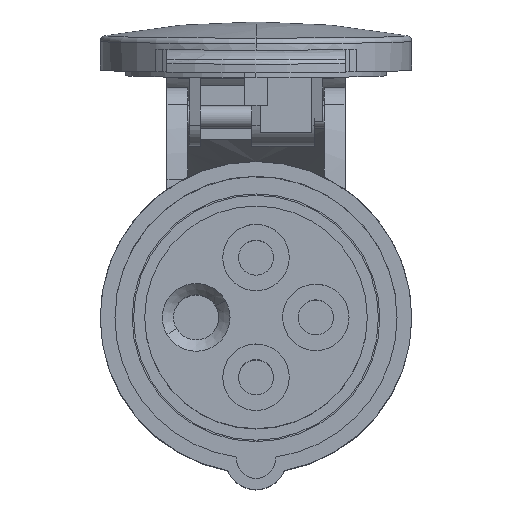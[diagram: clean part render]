
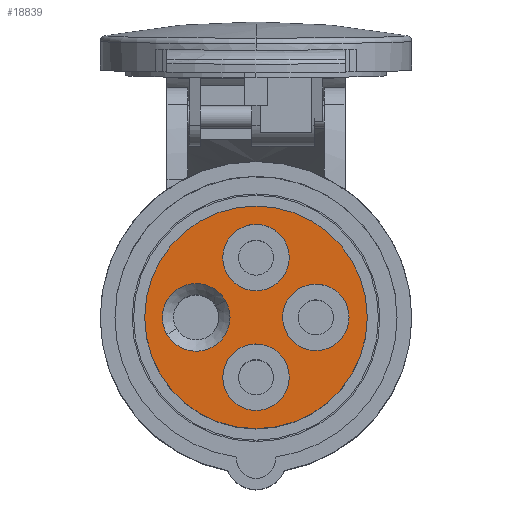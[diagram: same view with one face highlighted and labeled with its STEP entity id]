
A CAD part, top view. The second image highlights one B-rep face of the part: STEP entity #18839.
In plain terms, the highlighted planar face has unit normal (0, 0, 1).
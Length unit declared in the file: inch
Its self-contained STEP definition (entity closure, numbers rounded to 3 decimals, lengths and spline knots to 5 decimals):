
#17886=CARTESIAN_POINT('',(1.92144,1.22329,
-2.41285));
#17887=DIRECTION('',(0.,0.,-1.));
#17888=DIRECTION('',(-1.,0.,0.));
#17889=AXIS2_PLACEMENT_3D('',#17886,#17887,#17888);
#17891=CARTESIAN_POINT('',(1.92144,1.22329,
-2.41285));
#17892=DIRECTION('',(0.,0.,-1.));
#17893=DIRECTION('',(1.,0.,0.));
#17894=AXIS2_PLACEMENT_3D('',#17891,#17892,#17893);
#17896=CARTESIAN_POINT('',(1.70983,0.85677,
-2.41285));
#17897=DIRECTION('',(0.,0.,1.));
#17898=DIRECTION('',(0.5,0.866,0.));
#17899=AXIS2_PLACEMENT_3D('',#17896,#17897,#17898);
#17901=CARTESIAN_POINT('',(1.70983,0.85677,
-2.41285));
#17902=DIRECTION('',(0.,0.,1.));
#17903=DIRECTION('',(-1.,0.,0.));
#17904=AXIS2_PLACEMENT_3D('',#17901,#17902,#17903);
#17906=CARTESIAN_POINT('',(1.70983,0.85677,
-2.41285));
#17907=DIRECTION('',(0.,0.,1.));
#17908=DIRECTION('',(-0.481,-0.877,0.));
#17909=AXIS2_PLACEMENT_3D('',#17906,#17907,#17908);
#17911=CARTESIAN_POINT('',(1.70983,0.85677,
-2.41285));
#17912=DIRECTION('',(0.,0.,1.));
#17913=DIRECTION('',(1.,0.,0.));
#17914=AXIS2_PLACEMENT_3D('',#17911,#17912,#17913);
#17916=CARTESIAN_POINT('',(1.55492,1.43491,
-2.41285));
#17917=DIRECTION('',(0.,0.,1.));
#17918=DIRECTION('',(0.5,0.866,0.));
#17919=AXIS2_PLACEMENT_3D('',#17916,#17917,#17918);
#17921=CARTESIAN_POINT('',(1.55492,1.43491,
-2.41285));
#17922=DIRECTION('',(0.,0.,1.));
#17923=DIRECTION('',(-1.,0.,0.));
#17924=AXIS2_PLACEMENT_3D('',#17921,#17922,#17923);
#17926=CARTESIAN_POINT('',(1.55492,1.43491,
-2.41285));
#17927=DIRECTION('',(0.,0.,1.));
#17928=DIRECTION('',(-0.481,-0.877,0.));
#17929=AXIS2_PLACEMENT_3D('',#17926,#17927,#17928);
#17931=CARTESIAN_POINT('',(1.55492,1.43491,
-2.41285));
#17932=DIRECTION('',(0.,0.,1.));
#17933=DIRECTION('',(1.,0.,0.));
#17934=AXIS2_PLACEMENT_3D('',#17931,#17932,#17933);
#17936=CARTESIAN_POINT('',(2.13306,1.58982,
-2.41285));
#17937=DIRECTION('',(0.,0.,1.));
#17938=DIRECTION('',(0.5,0.866,0.));
#17939=AXIS2_PLACEMENT_3D('',#17936,#17937,#17938);
#17941=CARTESIAN_POINT('',(2.13306,1.58982,
-2.41285));
#17942=DIRECTION('',(0.,0.,1.));
#17943=DIRECTION('',(-1.,0.,0.));
#17944=AXIS2_PLACEMENT_3D('',#17941,#17942,#17943);
#17946=CARTESIAN_POINT('',(2.13306,1.58982,
-2.41285));
#17947=DIRECTION('',(0.,0.,1.));
#17948=DIRECTION('',(-0.481,-0.877,0.));
#17949=AXIS2_PLACEMENT_3D('',#17946,#17947,#17948);
#17951=CARTESIAN_POINT('',(2.13306,1.58982,
-2.41285));
#17952=DIRECTION('',(0.,0.,1.));
#17953=DIRECTION('',(1.,0.,0.));
#17954=AXIS2_PLACEMENT_3D('',#17951,#17952,#17953);
#17956=CARTESIAN_POINT('',(2.28797,1.01168,
-2.41285));
#17957=DIRECTION('',(0.,0.,1.));
#17958=DIRECTION('',(1.,0.,0.));
#17959=AXIS2_PLACEMENT_3D('',#17956,#17957,#17958);
#17961=CARTESIAN_POINT('',(2.28797,1.01168,
-2.41285));
#17962=DIRECTION('',(0.,0.,1.));
#17963=DIRECTION('',(0.,1.,0.));
#17964=AXIS2_PLACEMENT_3D('',#17961,#17962,#17963);
#17966=CARTESIAN_POINT('',(2.28797,1.01168,
-2.41285));
#17967=DIRECTION('',(0.,0.,1.));
#17968=DIRECTION('',(-1.,0.,0.));
#17969=AXIS2_PLACEMENT_3D('',#17966,#17967,#17968);
#17971=CARTESIAN_POINT('',(2.28797,1.01168,
-2.41285));
#17972=DIRECTION('',(0.,0.,1.));
#17973=DIRECTION('',(0.,-1.,0.));
#17974=AXIS2_PLACEMENT_3D('',#17971,#17972,#17973);
#18590=CARTESIAN_POINT('',(1.13404,1.22329,
-2.41285));
#18591=CARTESIAN_POINT('',(2.70885,1.22329,
-2.41285));
#18592=VERTEX_POINT('',#18590);
#18593=VERTEX_POINT('',#18591);
#18594=CARTESIAN_POINT('',(1.82738,1.06038,
-2.41285));
#18595=CARTESIAN_POINT('',(1.47472,0.85677,
-2.41285));
#18596=VERTEX_POINT('',#18594);
#18597=VERTEX_POINT('',#18595);
#18598=CARTESIAN_POINT('',(1.59678,0.65062,
-2.41285));
#18599=VERTEX_POINT('',#18598);
#18600=CARTESIAN_POINT('',(1.94494,0.85677,
-2.41285));
#18601=VERTEX_POINT('',#18600);
#18602=CARTESIAN_POINT('',(1.67247,1.63852,
-2.41285));
#18603=CARTESIAN_POINT('',(1.31981,1.43491,
-2.41285));
#18604=VERTEX_POINT('',#18602);
#18605=VERTEX_POINT('',#18603);
#18606=CARTESIAN_POINT('',(1.44187,1.22876,
-2.41285));
#18607=VERTEX_POINT('',#18606);
#18608=CARTESIAN_POINT('',(1.79003,1.43491,
-2.41285));
#18609=VERTEX_POINT('',#18608);
#18610=CARTESIAN_POINT('',(2.25061,1.79343,
-2.41285));
#18611=CARTESIAN_POINT('',(1.89795,1.58982,
-2.41285));
#18612=VERTEX_POINT('',#18610);
#18613=VERTEX_POINT('',#18611);
#18614=CARTESIAN_POINT('',(2.02001,1.38367,
-2.41285));
#18615=VERTEX_POINT('',#18614);
#18616=CARTESIAN_POINT('',(2.36817,1.58982,
-2.41285));
#18617=VERTEX_POINT('',#18616);
#18618=CARTESIAN_POINT('',(2.52742,1.01168,
-2.41285));
#18619=CARTESIAN_POINT('',(2.28797,1.25113,
-2.41285));
#18620=VERTEX_POINT('',#18618);
#18621=VERTEX_POINT('',#18619);
#18622=CARTESIAN_POINT('',(2.04852,1.01168,
-2.41285));
#18623=VERTEX_POINT('',#18622);
#18624=CARTESIAN_POINT('',(2.28797,0.77223,
-2.41285));
#18625=VERTEX_POINT('',#18624);
#18788=CARTESIAN_POINT('',(0.,0.,-2.41285));
#18789=DIRECTION('',(0.,0.,1.));
#18790=DIRECTION('',(1.,0.,0.));
#18791=AXIS2_PLACEMENT_3D('',#18788,#18789,#18790);
#18792=PLANE('',#18791);
#18794=ORIENTED_EDGE('',*,*,#18793,.T.);
#18796=ORIENTED_EDGE('',*,*,#18795,.T.);
#18797=EDGE_LOOP('',(#18794,#18796));
#18798=FACE_OUTER_BOUND('',#18797,.F.);
#18800=ORIENTED_EDGE('',*,*,#18799,.T.);
#18802=ORIENTED_EDGE('',*,*,#18801,.T.);
#18804=ORIENTED_EDGE('',*,*,#18803,.T.);
#18806=ORIENTED_EDGE('',*,*,#18805,.T.);
#18807=EDGE_LOOP('',(#18800,#18802,#18804,#18806));
#18808=FACE_BOUND('',#18807,.F.);
#18810=ORIENTED_EDGE('',*,*,#18809,.T.);
#18812=ORIENTED_EDGE('',*,*,#18811,.T.);
#18814=ORIENTED_EDGE('',*,*,#18813,.T.);
#18816=ORIENTED_EDGE('',*,*,#18815,.T.);
#18817=EDGE_LOOP('',(#18810,#18812,#18814,#18816));
#18818=FACE_BOUND('',#18817,.F.);
#18820=ORIENTED_EDGE('',*,*,#18819,.T.);
#18822=ORIENTED_EDGE('',*,*,#18821,.T.);
#18824=ORIENTED_EDGE('',*,*,#18823,.T.);
#18826=ORIENTED_EDGE('',*,*,#18825,.T.);
#18827=EDGE_LOOP('',(#18820,#18822,#18824,#18826));
#18828=FACE_BOUND('',#18827,.F.);
#18830=ORIENTED_EDGE('',*,*,#18829,.T.);
#18832=ORIENTED_EDGE('',*,*,#18831,.T.);
#18834=ORIENTED_EDGE('',*,*,#18833,.T.);
#18836=ORIENTED_EDGE('',*,*,#18835,.T.);
#18837=EDGE_LOOP('',(#18830,#18832,#18834,#18836));
#18838=FACE_BOUND('',#18837,.F.);
#18839=ADVANCED_FACE('',(#18798,#18808,#18818,#18828,#18838),#18792,.T.);
#17890=CIRCLE('',#17889,0.7874);
#17895=CIRCLE('',#17894,0.7874);
#17900=CIRCLE('',#17899,0.23511);
#17905=CIRCLE('',#17904,0.23511);
#17910=CIRCLE('',#17909,0.23511);
#17915=CIRCLE('',#17914,0.23511);
#17920=CIRCLE('',#17919,0.23511);
#17925=CIRCLE('',#17924,0.23511);
#17930=CIRCLE('',#17929,0.23511);
#17935=CIRCLE('',#17934,0.23511);
#17940=CIRCLE('',#17939,0.23511);
#17945=CIRCLE('',#17944,0.23511);
#17950=CIRCLE('',#17949,0.23511);
#17955=CIRCLE('',#17954,0.23511);
#17960=CIRCLE('',#17959,0.23945);
#17965=CIRCLE('',#17964,0.23945);
#17970=CIRCLE('',#17969,0.23945);
#17975=CIRCLE('',#17974,0.23945);
#18793=EDGE_CURVE('',#18592,#18593,#17890,.T.);
#18795=EDGE_CURVE('',#18593,#18592,#17895,.T.);
#18799=EDGE_CURVE('',#18596,#18597,#17900,.T.);
#18801=EDGE_CURVE('',#18597,#18599,#17905,.T.);
#18803=EDGE_CURVE('',#18599,#18601,#17910,.T.);
#18805=EDGE_CURVE('',#18601,#18596,#17915,.T.);
#18809=EDGE_CURVE('',#18604,#18605,#17920,.T.);
#18811=EDGE_CURVE('',#18605,#18607,#17925,.T.);
#18813=EDGE_CURVE('',#18607,#18609,#17930,.T.);
#18815=EDGE_CURVE('',#18609,#18604,#17935,.T.);
#18819=EDGE_CURVE('',#18612,#18613,#17940,.T.);
#18821=EDGE_CURVE('',#18613,#18615,#17945,.T.);
#18823=EDGE_CURVE('',#18615,#18617,#17950,.T.);
#18825=EDGE_CURVE('',#18617,#18612,#17955,.T.);
#18829=EDGE_CURVE('',#18620,#18621,#17960,.T.);
#18831=EDGE_CURVE('',#18621,#18623,#17965,.T.);
#18833=EDGE_CURVE('',#18623,#18625,#17970,.T.);
#18835=EDGE_CURVE('',#18625,#18620,#17975,.T.);
